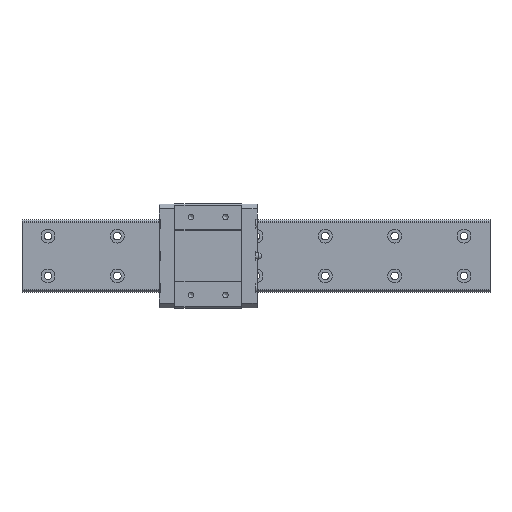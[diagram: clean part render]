
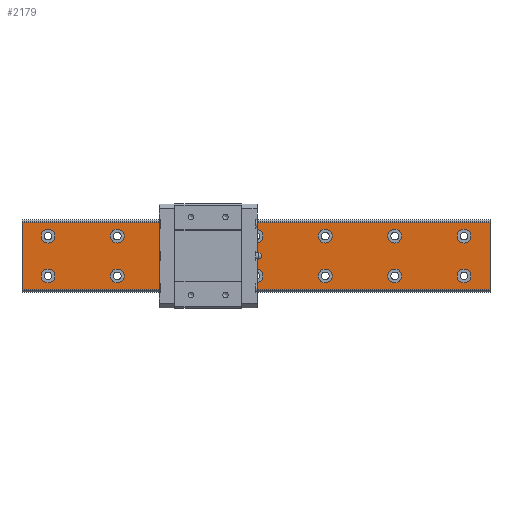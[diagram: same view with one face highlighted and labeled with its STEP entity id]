
A CAD part, top view. The second image highlights one B-rep face of the part: STEP entity #2179.
In plain terms, the highlighted planar face has unit normal (0, 0, 1).
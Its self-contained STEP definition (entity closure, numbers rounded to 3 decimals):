
#137=CARTESIAN_POINT('',(259.0,11.5,9.5));
#138=VERTEX_POINT('',#137);
#139=CARTESIAN_POINT('',(255.0,11.5,9.5));
#140=DIRECTION('',(0.0,0.0,-1.0));
#141=DIRECTION('',(1.0,0.0,0.0));
#142=AXIS2_PLACEMENT_3D('',#139,#140,#141);
#143=CIRCLE('',#142,4.0);
#144=EDGE_CURVE('',#138,#138,#143,.T.);
#268=CARTESIAN_POINT('',(259.0,-11.5,9.5));
#269=VERTEX_POINT('',#268);
#270=CARTESIAN_POINT('',(255.0,-11.5,9.5));
#271=DIRECTION('',(0.0,0.0,-1.0));
#272=DIRECTION('',(1.0,0.0,0.0));
#273=AXIS2_PLACEMENT_3D('',#270,#271,#272);
#274=CIRCLE('',#273,4.0);
#275=EDGE_CURVE('',#269,#269,#274,.T.);
#357=CARTESIAN_POINT('',(219.,11.5,9.5));
#358=VERTEX_POINT('',#357);
#359=CARTESIAN_POINT('',(215.0,11.5,9.5));
#360=DIRECTION('',(0.0,0.0,-1.0));
#361=DIRECTION('',(1.0,0.0,0.0));
#362=AXIS2_PLACEMENT_3D('',#359,#360,#361);
#363=CIRCLE('',#362,4.0);
#364=EDGE_CURVE('',#358,#358,#363,.T.);
#488=CARTESIAN_POINT('',(219.,-11.5,9.5));
#489=VERTEX_POINT('',#488);
#490=CARTESIAN_POINT('',(215.0,-11.5,9.5));
#491=DIRECTION('',(0.0,0.0,-1.0));
#492=DIRECTION('',(1.0,0.0,0.0));
#493=AXIS2_PLACEMENT_3D('',#490,#491,#492);
#494=CIRCLE('',#493,4.0);
#495=EDGE_CURVE('',#489,#489,#494,.T.);
#577=CARTESIAN_POINT('',(179.,11.5,9.5));
#578=VERTEX_POINT('',#577);
#579=CARTESIAN_POINT('',(175.0,11.5,9.5));
#580=DIRECTION('',(0.0,0.0,-1.0));
#581=DIRECTION('',(1.0,0.0,0.0));
#582=AXIS2_PLACEMENT_3D('',#579,#580,#581);
#583=CIRCLE('',#582,4.0);
#584=EDGE_CURVE('',#578,#578,#583,.T.);
#708=CARTESIAN_POINT('',(179.,-11.5,9.5));
#709=VERTEX_POINT('',#708);
#710=CARTESIAN_POINT('',(175.0,-11.5,9.5));
#711=DIRECTION('',(0.0,0.0,-1.0));
#712=DIRECTION('',(1.0,0.0,0.0));
#713=AXIS2_PLACEMENT_3D('',#710,#711,#712);
#714=CIRCLE('',#713,4.0);
#715=EDGE_CURVE('',#709,#709,#714,.T.);
#797=CARTESIAN_POINT('',(139.0,11.5,9.5));
#798=VERTEX_POINT('',#797);
#799=CARTESIAN_POINT('',(135.0,11.5,9.5));
#800=DIRECTION('',(0.0,0.0,-1.0));
#801=DIRECTION('',(1.0,0.0,0.0));
#802=AXIS2_PLACEMENT_3D('',#799,#800,#801);
#803=CIRCLE('',#802,4.0);
#804=EDGE_CURVE('',#798,#798,#803,.T.);
#928=CARTESIAN_POINT('',(139.0,-11.5,9.5));
#929=VERTEX_POINT('',#928);
#930=CARTESIAN_POINT('',(135.0,-11.5,9.5));
#931=DIRECTION('',(0.0,0.0,-1.0));
#932=DIRECTION('',(1.0,0.0,0.0));
#933=AXIS2_PLACEMENT_3D('',#930,#931,#932);
#934=CIRCLE('',#933,4.0);
#935=EDGE_CURVE('',#929,#929,#934,.T.);
#1017=CARTESIAN_POINT('',(99.0,11.5,9.5));
#1018=VERTEX_POINT('',#1017);
#1019=CARTESIAN_POINT('',(95.0,11.5,9.5));
#1020=DIRECTION('',(0.0,0.0,-1.0));
#1021=DIRECTION('',(1.0,0.0,0.0));
#1022=AXIS2_PLACEMENT_3D('',#1019,#1020,#1021);
#1023=CIRCLE('',#1022,4.0);
#1024=EDGE_CURVE('',#1018,#1018,#1023,.T.);
#1148=CARTESIAN_POINT('',(99.0,-11.5,9.5));
#1149=VERTEX_POINT('',#1148);
#1150=CARTESIAN_POINT('',(95.0,-11.5,9.5));
#1151=DIRECTION('',(0.0,0.0,-1.0));
#1152=DIRECTION('',(1.0,0.0,0.0));
#1153=AXIS2_PLACEMENT_3D('',#1150,#1151,#1152);
#1154=CIRCLE('',#1153,4.0);
#1155=EDGE_CURVE('',#1149,#1149,#1154,.T.);
#1237=CARTESIAN_POINT('',(59.0,11.5,9.5));
#1238=VERTEX_POINT('',#1237);
#1239=CARTESIAN_POINT('',(55.0,11.5,9.5));
#1240=DIRECTION('',(0.0,0.0,-1.0));
#1241=DIRECTION('',(1.0,0.0,0.0));
#1242=AXIS2_PLACEMENT_3D('',#1239,#1240,#1241);
#1243=CIRCLE('',#1242,4.0);
#1244=EDGE_CURVE('',#1238,#1238,#1243,.T.);
#1368=CARTESIAN_POINT('',(59.0,-11.5,9.5));
#1369=VERTEX_POINT('',#1368);
#1370=CARTESIAN_POINT('',(55.,-11.5,9.5));
#1371=DIRECTION('',(0.0,0.0,-1.0));
#1372=DIRECTION('',(1.0,0.0,0.0));
#1373=AXIS2_PLACEMENT_3D('',#1370,#1371,#1372);
#1374=CIRCLE('',#1373,4.0);
#1375=EDGE_CURVE('',#1369,#1369,#1374,.T.);
#1457=CARTESIAN_POINT('',(19.0,11.5,9.5));
#1458=VERTEX_POINT('',#1457);
#1459=CARTESIAN_POINT('',(15.0,11.5,9.5));
#1460=DIRECTION('',(0.0,0.0,-1.0));
#1461=DIRECTION('',(1.0,0.0,0.0));
#1462=AXIS2_PLACEMENT_3D('',#1459,#1460,#1461);
#1463=CIRCLE('',#1462,4.0);
#1464=EDGE_CURVE('',#1458,#1458,#1463,.T.);
#1567=CARTESIAN_POINT('',(19.,-11.5,9.5));
#1568=VERTEX_POINT('',#1567);
#1569=CARTESIAN_POINT('',(15.,-11.5,9.5));
#1570=DIRECTION('',(0.0,0.0,-1.0));
#1571=DIRECTION('',(1.0,0.0,0.0));
#1572=AXIS2_PLACEMENT_3D('',#1569,#1570,#1571);
#1573=CIRCLE('',#1572,4.0);
#1574=EDGE_CURVE('',#1568,#1568,#1573,.T.);
#2081=CARTESIAN_POINT('',(270.0,-19.6,9.5));
#2082=VERTEX_POINT('',#2081);
#2089=CARTESIAN_POINT('',(0.0,-19.6,9.5));
#2090=VERTEX_POINT('',#2089);
#2091=CARTESIAN_POINT('',(0.0,-19.6,9.5));
#2092=DIRECTION('',(1.0,0.0,0.0));
#2093=VECTOR('',#2092,270.0);
#2094=LINE('',#2091,#2093);
#2095=EDGE_CURVE('',#2090,#2082,#2094,.T.);
#2107=CARTESIAN_POINT('',(0.0,-19.6,9.5));
#2108=DIRECTION('',(0.0,0.0,1.0));
#2109=DIRECTION('',(1.0,0.0,0.0));
#2110=AXIS2_PLACEMENT_3D('',#2107,#2108,#2109);
#2111=PLANE('',#2110);
#2112=CARTESIAN_POINT('',(270.0,19.6,9.5));
#2113=VERTEX_POINT('',#2112);
#2114=CARTESIAN_POINT('',(270.0,-19.6,9.5));
#2115=DIRECTION('',(0.0,1.0,0.0));
#2116=VECTOR('',#2115,39.2);
#2117=LINE('',#2114,#2116);
#2118=EDGE_CURVE('',#2082,#2113,#2117,.T.);
#2119=ORIENTED_EDGE('',*,*,#2118,.T.);
#2120=CARTESIAN_POINT('',(0.0,19.6,9.5));
#2121=VERTEX_POINT('',#2120);
#2122=CARTESIAN_POINT('',(0.0,19.6,9.5));
#2123=DIRECTION('',(1.0,0.0,0.0));
#2124=VECTOR('',#2123,270.0);
#2125=LINE('',#2122,#2124);
#2126=EDGE_CURVE('',#2121,#2113,#2125,.T.);
#2127=ORIENTED_EDGE('',*,*,#2126,.F.);
#2128=CARTESIAN_POINT('',(0.0,-19.6,9.5));
#2129=DIRECTION('',(0.0,1.0,0.0));
#2130=VECTOR('',#2129,39.2);
#2131=LINE('',#2128,#2130);
#2132=EDGE_CURVE('',#2090,#2121,#2131,.T.);
#2133=ORIENTED_EDGE('',*,*,#2132,.F.);
#2134=ORIENTED_EDGE('',*,*,#2095,.T.);
#2135=EDGE_LOOP('',(#2119,#2127,#2133,#2134));
#2136=FACE_OUTER_BOUND('',#2135,.T.);
#2137=ORIENTED_EDGE('',*,*,#144,.T.);
#2138=EDGE_LOOP('',(#2137));
#2139=FACE_BOUND('',#2138,.T.);
#2140=ORIENTED_EDGE('',*,*,#275,.T.);
#2141=EDGE_LOOP('',(#2140));
#2142=FACE_BOUND('',#2141,.T.);
#2143=ORIENTED_EDGE('',*,*,#364,.T.);
#2144=EDGE_LOOP('',(#2143));
#2145=FACE_BOUND('',#2144,.T.);
#2146=ORIENTED_EDGE('',*,*,#495,.T.);
#2147=EDGE_LOOP('',(#2146));
#2148=FACE_BOUND('',#2147,.T.);
#2149=ORIENTED_EDGE('',*,*,#584,.T.);
#2150=EDGE_LOOP('',(#2149));
#2151=FACE_BOUND('',#2150,.T.);
#2152=ORIENTED_EDGE('',*,*,#715,.T.);
#2153=EDGE_LOOP('',(#2152));
#2154=FACE_BOUND('',#2153,.T.);
#2155=ORIENTED_EDGE('',*,*,#804,.T.);
#2156=EDGE_LOOP('',(#2155));
#2157=FACE_BOUND('',#2156,.T.);
#2158=ORIENTED_EDGE('',*,*,#935,.T.);
#2159=EDGE_LOOP('',(#2158));
#2160=FACE_BOUND('',#2159,.T.);
#2161=ORIENTED_EDGE('',*,*,#1024,.T.);
#2162=EDGE_LOOP('',(#2161));
#2163=FACE_BOUND('',#2162,.T.);
#2164=ORIENTED_EDGE('',*,*,#1155,.T.);
#2165=EDGE_LOOP('',(#2164));
#2166=FACE_BOUND('',#2165,.T.);
#2167=ORIENTED_EDGE('',*,*,#1244,.T.);
#2168=EDGE_LOOP('',(#2167));
#2169=FACE_BOUND('',#2168,.T.);
#2170=ORIENTED_EDGE('',*,*,#1375,.T.);
#2171=EDGE_LOOP('',(#2170));
#2172=FACE_BOUND('',#2171,.T.);
#2173=ORIENTED_EDGE('',*,*,#1464,.T.);
#2174=EDGE_LOOP('',(#2173));
#2175=FACE_BOUND('',#2174,.T.);
#2176=ORIENTED_EDGE('',*,*,#1574,.T.);
#2177=EDGE_LOOP('',(#2176));
#2178=FACE_BOUND('',#2177,.T.);
#2179=ADVANCED_FACE('',(#2136,#2139,#2142,#2145,#2148,#2151,#2154,#2157,#2160,#2163,#2166,#2169,#2172,#2175,#2178),#2111,.T.);
